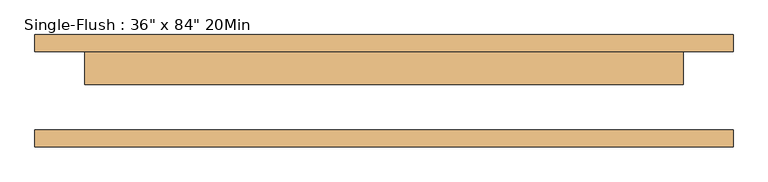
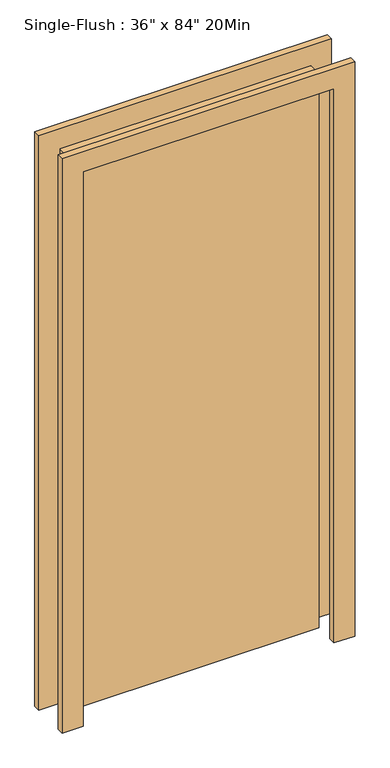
"""IFC4 building model written with IfcOpenShell, lengths in millimetres: door geometry."""

from ifc_helpers import new_model, si_unit, frame, origin, origin_with_axes, place, context, project, spatial, polyline, outline, extrude, source, transform, mapped, element, save


def door_aa02eb04(model_context):
    return source(origin(), model_context, "Body", "SweptSolid", [
        extrude(outline(polyline([(2209.8, -533.4), (0.0, -533.4), (0.0, -457.2), (2133.6, -457.2), (2133.6, 457.2), (0.0, 457.2), (0.0, 533.4), (2209.8, 533.4), (2209.8, -533.4)])), frame((0.0, 60.325, 0.0), z_axis=(0.0, 1.0, 0.0), x_axis=(0.0, 0.0, 1.0)), (0.0, 0.0, 1.0), 25.4),
        extrude(outline(polyline([(2209.8, 533.4), (2209.8, -533.4), (0.0, -533.4), (0.0, -457.2), (2133.6, -457.2), (2133.6, 457.2), (0.0, 457.2), (0.0, 533.4), (2209.8, 533.4)])), frame((0.0, -85.725, 0.0), z_axis=(0.0, 1.0, 0.0), x_axis=(0.0, 0.0, 1.0)), (0.0, 0.0, 1.0), 25.4),
        extrude(outline(polyline([(457.2, 9.525), (-457.2, 9.525), (-457.2, 60.325), (457.2, 60.325), (457.2, 9.525)])), origin_with_axes(), (0.0, 0.0, 1.0), 2133.6),
    ])


if __name__ == "__main__":
    model = new_model("IFC4")
    model_context = context("Model", 3, world=origin())
    ifc_project = project(units=[si_unit("LENGTHUNIT", "METRE", prefix="MILLI")], contexts=[model_context])
    site = spatial("IfcSite", under=ifc_project)
    building = spatial("IfcBuilding", under=site)
    placement = place(None, origin())
    door_shape = door_aa02eb04(model_context)
    element("IfcDoor", 1, ObjectType="Single-Flush : 36\" x 84\" 20Min", at=placement, inside=building, context=model_context, shape_type="MappedRepresentation", body=[
        mapped(door_shape, transform((0.0, 0.0, 0.0), x_axis=(1.0, 0.0, 0.0), y_axis=(0.0, 1.0, 0.0), z_axis=(0.0, 0.0, 1.0))),
    ])
    save(model, "model.ifc")
